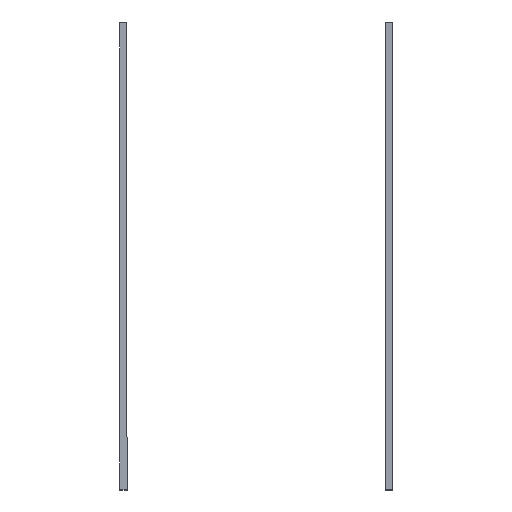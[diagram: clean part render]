
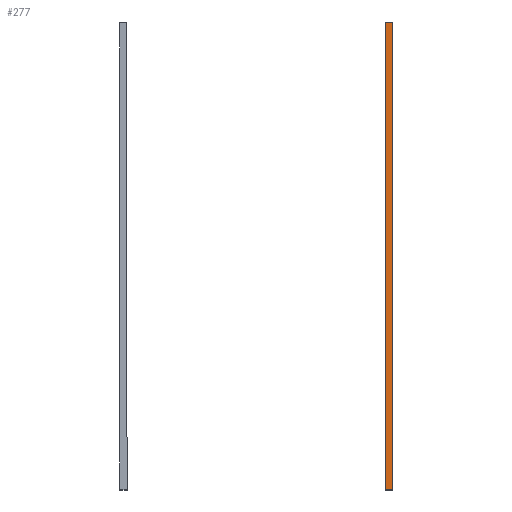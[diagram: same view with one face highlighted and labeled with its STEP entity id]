
A CAD part, top view. The second image highlights one B-rep face of the part: STEP entity #277.
In plain terms, the highlighted planar face has unit normal (0, 0, 1).
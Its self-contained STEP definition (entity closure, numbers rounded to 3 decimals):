
#44 = VERTEX_POINT('',#45);
#45 = CARTESIAN_POINT('',(9.223,-16.475,4.78));
#54 = PLANE('',#55);
#55 = AXIS2_PLACEMENT_3D('',#56,#57,#58);
#56 = CARTESIAN_POINT('',(-5.043,-16.475,6.073
    ));
#57 = DIRECTION('',(-0.,-1.,-0.));
#58 = DIRECTION('',(0.,0.,-1.));
#65 = PLANE('',#66);
#66 = AXIS2_PLACEMENT_3D('',#67,#68,#69);
#67 = CARTESIAN_POINT('',(9.223,-20.,-20.));
#68 = DIRECTION('',(-1.,0.,0.));
#69 = DIRECTION('',(0.,1.,0.));
#105 = VERTEX_POINT('',#106);
#106 = CARTESIAN_POINT('',(9.723,-16.475,4.78));
#120 = PLANE('',#121);
#121 = AXIS2_PLACEMENT_3D('',#122,#123,#124);
#122 = CARTESIAN_POINT('',(9.723,-3.054,4.124
    ));
#123 = DIRECTION('',(1.,0.,0.));
#124 = DIRECTION('',(-0.,0.,1.));
#132 = EDGE_CURVE('',#105,#44,#133,.T.);
#133 = SURFACE_CURVE('',#134,(#138,#144),.PCURVE_S1.);
#134 = LINE('',#135,#136);
#135 = CARTESIAN_POINT('',(-17.522,-16.475,4.78));
#136 = VECTOR('',#137,1.);
#137 = DIRECTION('',(-1.,0.,0.));
#138 = PCURVE('',#54,#139);
#139 = DEFINITIONAL_REPRESENTATION('',(#140),#143);
#140 = B_SPLINE_CURVE_WITH_KNOTS('',1,(#141,#142),.UNSPECIFIED.,.F.,.F.,
  (2,2),(-27.245,-26.745),.PIECEWISE_BEZIER_KNOTS.);
#141 = CARTESIAN_POINT('',(1.293,14.766));
#142 = CARTESIAN_POINT('',(1.293,14.266));
#143 = ( GEOMETRIC_REPRESENTATION_CONTEXT(2) 
PARAMETRIC_REPRESENTATION_CONTEXT() REPRESENTATION_CONTEXT('2D SPACE',''
  ) );
#144 = PCURVE('',#145,#150);
#145 = PLANE('',#146);
#146 = AXIS2_PLACEMENT_3D('',#147,#148,#149);
#147 = CARTESIAN_POINT('',(-30.,-20.,4.78));
#148 = DIRECTION('',(0.,0.,1.));
#149 = DIRECTION('',(1.,0.,-0.));
#150 = DEFINITIONAL_REPRESENTATION('',(#151),#154);
#151 = B_SPLINE_CURVE_WITH_KNOTS('',1,(#152,#153),.UNSPECIFIED.,.F.,.F.,
  (2,2),(-27.245,-26.745),.PIECEWISE_BEZIER_KNOTS.);
#152 = CARTESIAN_POINT('',(39.723,3.525));
#153 = CARTESIAN_POINT('',(39.223,3.525));
#154 = ( GEOMETRIC_REPRESENTATION_CONTEXT(2) 
PARAMETRIC_REPRESENTATION_CONTEXT() REPRESENTATION_CONTEXT('2D SPACE',''
  ) );
#160 = EDGE_CURVE('',#44,#161,#163,.T.);
#161 = VERTEX_POINT('',#162);
#162 = CARTESIAN_POINT('',(9.223,16.473,4.78));
#163 = SURFACE_CURVE('',#164,(#168,#174),.PCURVE_S1.);
#164 = LINE('',#165,#166);
#165 = CARTESIAN_POINT('',(9.223,-20.,4.78));
#166 = VECTOR('',#167,1.);
#167 = DIRECTION('',(0.,1.,-0.));
#168 = PCURVE('',#65,#169);
#169 = DEFINITIONAL_REPRESENTATION('',(#170),#173);
#170 = B_SPLINE_CURVE_WITH_KNOTS('',1,(#171,#172),.UNSPECIFIED.,.F.,.F.,
  (2,2),(0.,40.),.PIECEWISE_BEZIER_KNOTS.);
#171 = CARTESIAN_POINT('',(0.,-24.78));
#172 = CARTESIAN_POINT('',(40.,-24.78));
#173 = ( GEOMETRIC_REPRESENTATION_CONTEXT(2) 
PARAMETRIC_REPRESENTATION_CONTEXT() REPRESENTATION_CONTEXT('2D SPACE',''
  ) );
#174 = PCURVE('',#145,#175);
#175 = DEFINITIONAL_REPRESENTATION('',(#176),#179);
#176 = B_SPLINE_CURVE_WITH_KNOTS('',1,(#177,#178),.UNSPECIFIED.,.F.,.F.,
  (2,2),(0.,40.),.PIECEWISE_BEZIER_KNOTS.);
#177 = CARTESIAN_POINT('',(39.223,0.));
#178 = CARTESIAN_POINT('',(39.223,40.));
#179 = ( GEOMETRIC_REPRESENTATION_CONTEXT(2) 
PARAMETRIC_REPRESENTATION_CONTEXT() REPRESENTATION_CONTEXT('2D SPACE',''
  ) );
#196 = PLANE('',#197);
#197 = AXIS2_PLACEMENT_3D('',#198,#199,#200);
#198 = CARTESIAN_POINT('',(-4.956,16.474,
    5.407));
#199 = DIRECTION('',(0.,1.,-0.002));
#200 = DIRECTION('',(0.,0.002,1.));
#277 = ADVANCED_FACE('',(#278),#145,.T.);
#278 = FACE_BOUND('',#279,.T.);
#279 = EDGE_LOOP('',(#280,#301,#302,#303,#325,#348));
#280 = ORIENTED_EDGE('',*,*,#281,.F.);
#281 = EDGE_CURVE('',#161,#282,#284,.T.);
#282 = VERTEX_POINT('',#283);
#283 = CARTESIAN_POINT('',(9.723,16.473,4.78));
#284 = SURFACE_CURVE('',#285,(#289,#295),.PCURVE_S1.);
#285 = LINE('',#286,#287);
#286 = CARTESIAN_POINT('',(-17.478,16.473,4.78));
#287 = VECTOR('',#288,1.);
#288 = DIRECTION('',(1.,-0.,0.));
#289 = PCURVE('',#145,#290);
#290 = DEFINITIONAL_REPRESENTATION('',(#291),#294);
#291 = B_SPLINE_CURVE_WITH_KNOTS('',1,(#292,#293),.UNSPECIFIED.,.F.,.F.,
  (2,2),(26.701,27.201),.PIECEWISE_BEZIER_KNOTS.);
#292 = CARTESIAN_POINT('',(39.223,36.473));
#293 = CARTESIAN_POINT('',(39.723,36.473));
#294 = ( GEOMETRIC_REPRESENTATION_CONTEXT(2) 
PARAMETRIC_REPRESENTATION_CONTEXT() REPRESENTATION_CONTEXT('2D SPACE',''
  ) );
#295 = PCURVE('',#196,#296);
#296 = DEFINITIONAL_REPRESENTATION('',(#297),#300);
#297 = B_SPLINE_CURVE_WITH_KNOTS('',1,(#298,#299),.UNSPECIFIED.,.F.,.F.,
  (2,2),(26.701,27.201),.PIECEWISE_BEZIER_KNOTS.);
#298 = CARTESIAN_POINT('',(-0.627,14.179));
#299 = CARTESIAN_POINT('',(-0.627,14.679));
#300 = ( GEOMETRIC_REPRESENTATION_CONTEXT(2) 
PARAMETRIC_REPRESENTATION_CONTEXT() REPRESENTATION_CONTEXT('2D SPACE',''
  ) );
#301 = ORIENTED_EDGE('',*,*,#160,.F.);
#302 = ORIENTED_EDGE('',*,*,#132,.F.);
#303 = ORIENTED_EDGE('',*,*,#304,.T.);
#304 = EDGE_CURVE('',#105,#305,#307,.T.);
#305 = VERTEX_POINT('',#306);
#306 = CARTESIAN_POINT('',(9.723,-14.499,4.78
    ));
#307 = SURFACE_CURVE('',#308,(#312,#318),.PCURVE_S1.);
#308 = LINE('',#309,#310);
#309 = CARTESIAN_POINT('',(9.723,-20.,4.78));
#310 = VECTOR('',#311,1.);
#311 = DIRECTION('',(0.,1.,-0.));
#312 = PCURVE('',#145,#313);
#313 = DEFINITIONAL_REPRESENTATION('',(#314),#317);
#314 = B_SPLINE_CURVE_WITH_KNOTS('',1,(#315,#316),.UNSPECIFIED.,.F.,.F.,
  (2,2),(0.,40.),.PIECEWISE_BEZIER_KNOTS.);
#315 = CARTESIAN_POINT('',(39.723,0.));
#316 = CARTESIAN_POINT('',(39.723,40.));
#317 = ( GEOMETRIC_REPRESENTATION_CONTEXT(2) 
PARAMETRIC_REPRESENTATION_CONTEXT() REPRESENTATION_CONTEXT('2D SPACE',''
  ) );
#318 = PCURVE('',#120,#319);
#319 = DEFINITIONAL_REPRESENTATION('',(#320),#324);
#320 = LINE('',#321,#322);
#321 = CARTESIAN_POINT('',(0.656,16.946));
#322 = VECTOR('',#323,1.);
#323 = DIRECTION('',(0.,-1.));
#324 = ( GEOMETRIC_REPRESENTATION_CONTEXT(2) 
PARAMETRIC_REPRESENTATION_CONTEXT() REPRESENTATION_CONTEXT('2D SPACE',''
  ) );
#325 = ORIENTED_EDGE('',*,*,#326,.F.);
#326 = EDGE_CURVE('',#327,#305,#329,.T.);
#327 = VERTEX_POINT('',#328);
#328 = CARTESIAN_POINT('',(9.723,14.465,4.78
    ));
#329 = SURFACE_CURVE('',#330,(#334,#341),.PCURVE_S1.);
#330 = LINE('',#331,#332);
#331 = CARTESIAN_POINT('',(9.723,14.465,4.78
    ));
#332 = VECTOR('',#333,1.);
#333 = DIRECTION('',(0.,-1.,0.));
#334 = PCURVE('',#145,#335);
#335 = DEFINITIONAL_REPRESENTATION('',(#336),#340);
#336 = LINE('',#337,#338);
#337 = CARTESIAN_POINT('',(39.723,34.465));
#338 = VECTOR('',#339,1.);
#339 = DIRECTION('',(0.,-1.));
#340 = ( GEOMETRIC_REPRESENTATION_CONTEXT(2) 
PARAMETRIC_REPRESENTATION_CONTEXT() REPRESENTATION_CONTEXT('2D SPACE',''
  ) );
#341 = PCURVE('',#120,#342);
#342 = DEFINITIONAL_REPRESENTATION('',(#343),#347);
#343 = LINE('',#344,#345);
#344 = CARTESIAN_POINT('',(0.656,-17.519));
#345 = VECTOR('',#346,1.);
#346 = DIRECTION('',(0.,1.));
#347 = ( GEOMETRIC_REPRESENTATION_CONTEXT(2) 
PARAMETRIC_REPRESENTATION_CONTEXT() REPRESENTATION_CONTEXT('2D SPACE',''
  ) );
#348 = ORIENTED_EDGE('',*,*,#349,.T.);
#349 = EDGE_CURVE('',#327,#282,#350,.T.);
#350 = SURFACE_CURVE('',#351,(#355,#361),.PCURVE_S1.);
#351 = LINE('',#352,#353);
#352 = CARTESIAN_POINT('',(9.723,-20.,4.78));
#353 = VECTOR('',#354,1.);
#354 = DIRECTION('',(0.,1.,-0.));
#355 = PCURVE('',#145,#356);
#356 = DEFINITIONAL_REPRESENTATION('',(#357),#360);
#357 = B_SPLINE_CURVE_WITH_KNOTS('',1,(#358,#359),.UNSPECIFIED.,.F.,.F.,
  (2,2),(0.,40.),.PIECEWISE_BEZIER_KNOTS.);
#358 = CARTESIAN_POINT('',(39.723,0.));
#359 = CARTESIAN_POINT('',(39.723,40.));
#360 = ( GEOMETRIC_REPRESENTATION_CONTEXT(2) 
PARAMETRIC_REPRESENTATION_CONTEXT() REPRESENTATION_CONTEXT('2D SPACE',''
  ) );
#361 = PCURVE('',#120,#362);
#362 = DEFINITIONAL_REPRESENTATION('',(#363),#367);
#363 = LINE('',#364,#365);
#364 = CARTESIAN_POINT('',(0.656,16.946));
#365 = VECTOR('',#366,1.);
#366 = DIRECTION('',(0.,-1.));
#367 = ( GEOMETRIC_REPRESENTATION_CONTEXT(2) 
PARAMETRIC_REPRESENTATION_CONTEXT() REPRESENTATION_CONTEXT('2D SPACE',''
  ) );
